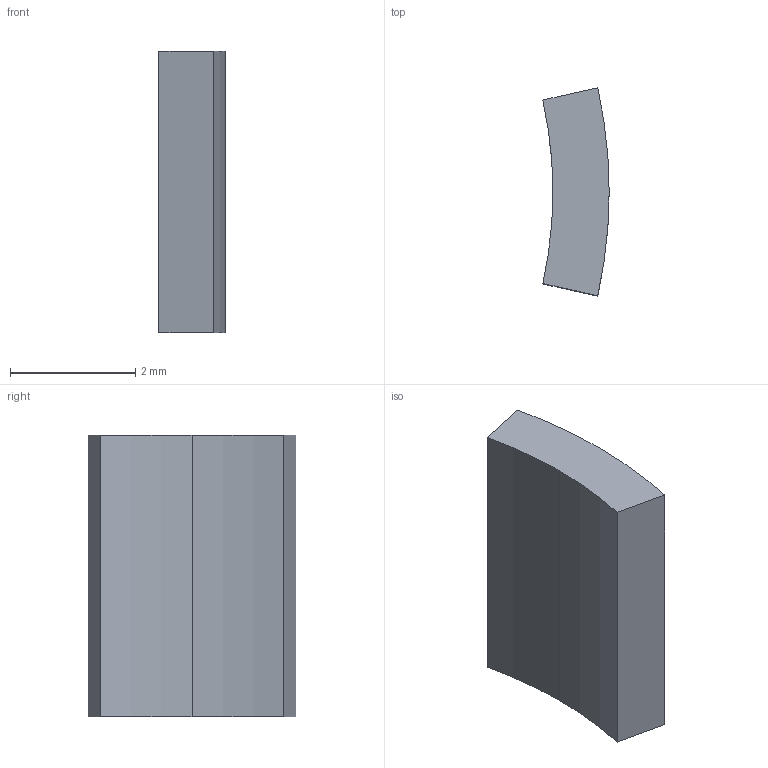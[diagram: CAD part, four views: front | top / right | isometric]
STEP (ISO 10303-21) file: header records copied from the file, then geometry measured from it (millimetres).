
FILE_DESCRIPTION(('Open CASCADE Model'),'2;1');
FILE_NAME('Open CASCADE Shape Model','2026-10-24T17:46:06',('Author'),( 'Open CASCADE'),'Open CASCADE STEP processor 8.0','Open CASCADE 8.0' ,'Unknown');
FILE_SCHEMA(('AUTOMOTIVE_DESIGN { 1 0 10303 214 1 1 1 1 }'));
Length unit declared in the file: millimetre
Products named in the file (1): Open CASCADE STEP translator 8.0 5
Bounding box: 1.06 x 3.33 x 4.5 mm (x, y, z)
Volume: 12.8 mm3; surface area: 42.2 mm2
Topology: 1 solids, 1 shells, 8 faces, 18 edges, 12 vertices
Faces by surface type: cylinder 4, plane 4
Entity records: 458 total; most frequent: CARTESIAN_POINT 91, DIRECTION 64, ORIENTED_EDGE 36, PCURVE 36, DEFINITIONAL_REPRESENTATION 36, LINE 22, VECTOR 22, EDGE_CURVE 18
